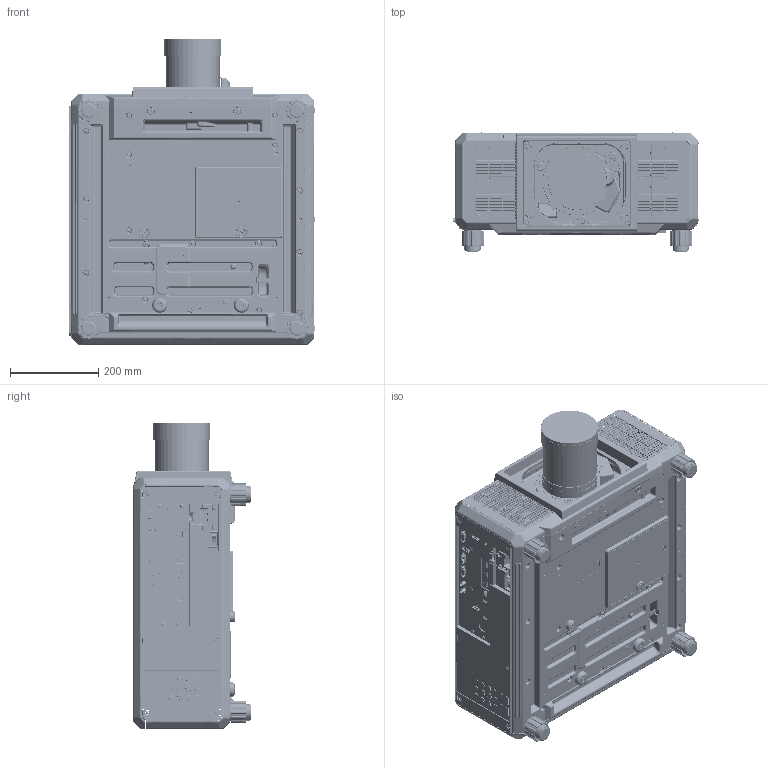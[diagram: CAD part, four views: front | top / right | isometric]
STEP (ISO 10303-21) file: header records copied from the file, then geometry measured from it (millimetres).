
FILE_DESCRIPTION(/* description */ (''),/* implementation_level */ '2;1');
FILE_NAME(/* name */ '01103025_ZA00_RQ25K_D75LE40_FACE.stp',/* time_stamp */ '2022-12-02T10:27:48+09:00',/* author */ (''),/* organization */ (''),/* preprocessor_version */ 'ST-DEVELOPER v16',/* originating_system */ 'SIEMENS PLM Software NX 10.0',/* authorisation */ '');
FILE_SCHEMA (('AUTOMOTIVE_DESIGN { 1 0 10303 214 3 1 1 1 }'));
Products named in the file (1): 01103025_ZA00
Bounding box: 556.3 x 269 x 694.45 mm (x, y, z)
Surface area: 1903124.8 mm2 (no closed solid volume)
Topology: 0 solids, 2242 shells, 10243 faces, 46821 edges, 38279 vertices
Faces by surface type: plane 5154, cylinder 3961, torus 451, bspline 393, cone 162, sphere 120, extrusion 2
Full cylindrical faces by diameter (mm): 1.02 x2, 3 x1, 3.6 x2, 5 x2, 6 x2, 7 x2, 8 x2, 9.5 x2, 14.9 x2, 16 x1, 23.647 x1, 37.2 x4, 40 x4, 122.7 x1, 125.6 x1, 126.2 x1, 126.6 x1, 128.6 x1, 129.6 x2, 154 x1
Entity records: 568614 total; most frequent: CARTESIAN_POINT 131033, DIRECTION 76776, ORIENTED_EDGE 56634, EDGE_CURVE 46344, VERTEX_POINT 38128, VECTOR 26388, LINE 26386, AXIS2_PLACEMENT_3D 25194
